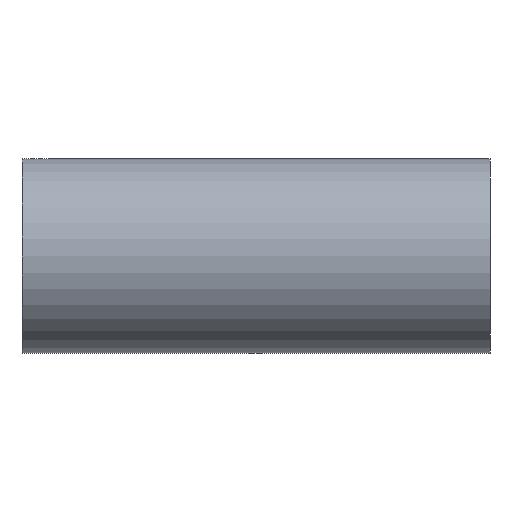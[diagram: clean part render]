
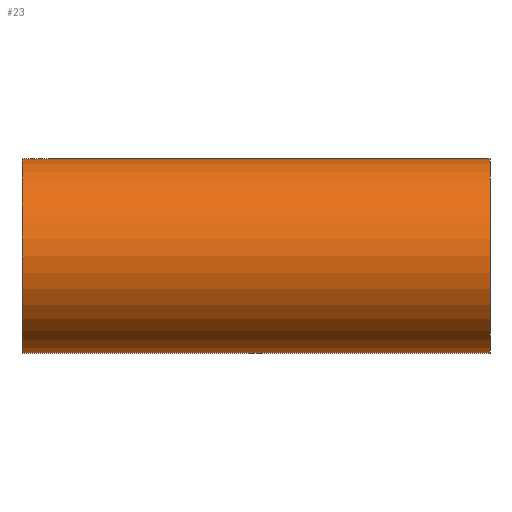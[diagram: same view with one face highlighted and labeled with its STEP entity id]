
A CAD part, front view. The second image highlights one B-rep face of the part: STEP entity #23.
In plain terms, the highlighted cylindrical face has radius 31.75 mm (diameter 63.5 mm), a partial arc.
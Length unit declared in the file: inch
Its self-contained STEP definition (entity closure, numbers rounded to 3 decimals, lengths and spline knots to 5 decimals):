
#16 = CARTESIAN_POINT ( 'NONE',  ( 3., 0., 0. ) ) ;
#23 = ADVANCED_FACE ( 'NONE', ( #223 ), #212, .T. ) ;
#26 = DIRECTION ( 'NONE',  ( 1., 0., 0. ) ) ;
#48 = CARTESIAN_POINT ( 'NONE',  ( 3., 0., 0. ) ) ;
#56 = DIRECTION ( 'NONE',  ( 0., 0., -1. ) ) ;
#66 = CARTESIAN_POINT ( 'NONE',  ( 3., 0., -1.25 ) ) ;
#99 = EDGE_CURVE ( 'NONE', #413, #314, #205, .T. ) ;
#104 = CARTESIAN_POINT ( 'NONE',  ( 3., 0., -1.25 ) ) ;
#112 = ORIENTED_EDGE ( 'NONE', *, *, #367, .F. ) ;
#124 = DIRECTION ( 'NONE',  ( -1., 0., 0. ) ) ;
#126 = VECTOR ( 'NONE', #388, 39.37008 ) ;
#128 = LINE ( 'NONE', #423, #126 ) ;
#133 = CARTESIAN_POINT ( 'NONE',  ( -3., 0., -1.25 ) ) ;
#151 = DIRECTION ( 'NONE',  ( 0., 0., 1. ) ) ;
#165 = VECTOR ( 'NONE', #124, 39.37008 ) ;
#169 = CARTESIAN_POINT ( 'NONE',  ( 3., 0., 1.25 ) ) ;
#170 = LINE ( 'NONE', #330, #165 ) ;
#174 = VECTOR ( 'NONE', #238, 39.37008 ) ;
#179 = EDGE_CURVE ( 'NONE', #226, #314, #197, .T. ) ;
#186 = CIRCLE ( 'NONE', #377, 1.25 ) ;
#197 = CIRCLE ( 'NONE', #391, 1.25 ) ;
#205 = LINE ( 'NONE', #104, #207 ) ;
#207 = VECTOR ( 'NONE', #379, 39.37008 ) ;
#211 = LINE ( 'NONE', #278, #174 ) ;
#212 = CYLINDRICAL_SURFACE ( 'NONE', #401, 1.25 ) ;
#223 = FACE_OUTER_BOUND ( 'NONE', #301, .T. ) ;
#226 = VERTEX_POINT ( 'NONE', #375 ) ;
#228 = ORIENTED_EDGE ( 'NONE', *, *, #356, .T. ) ;
#238 = DIRECTION ( 'NONE',  ( -1., 0., 0. ) ) ;
#272 = ORIENTED_EDGE ( 'NONE', *, *, #438, .T. ) ;
#274 = VERTEX_POINT ( 'NONE', #66 ) ;
#278 = CARTESIAN_POINT ( 'NONE',  ( 3., 0., 1.25 ) ) ;
#281 = VERTEX_POINT ( 'NONE', #169 ) ;
#283 = CARTESIAN_POINT ( 'NONE',  ( 0., 0., -1.25 ) ) ;
#290 = ORIENTED_EDGE ( 'NONE', *, *, #99, .F. ) ;
#296 = EDGE_CURVE ( 'NONE', #281, #274, #186, .T. ) ;
#301 = EDGE_LOOP ( 'NONE', ( #112, #317, #272, #228, #433, #290 ) ) ;
#306 = VERTEX_POINT ( 'NONE', #372 ) ;
#314 = VERTEX_POINT ( 'NONE', #133 ) ;
#317 = ORIENTED_EDGE ( 'NONE', *, *, #296, .F. ) ;
#330 = CARTESIAN_POINT ( 'NONE',  ( 3., 0., -1.25 ) ) ;
#356 = EDGE_CURVE ( 'NONE', #306, #226, #211, .T. ) ;
#360 = DIRECTION ( 'NONE',  ( -1., 0., 0. ) ) ;
#367 = EDGE_CURVE ( 'NONE', #274, #413, #170, .T. ) ;
#372 = CARTESIAN_POINT ( 'NONE',  ( 0., 0., 1.25 ) ) ;
#375 = CARTESIAN_POINT ( 'NONE',  ( -3., 0., 1.25 ) ) ;
#377 = AXIS2_PLACEMENT_3D ( 'NONE', #16, #444, #440 ) ;
#379 = DIRECTION ( 'NONE',  ( -1., 0., 0. ) ) ;
#388 = DIRECTION ( 'NONE',  ( -1., 0., 0. ) ) ;
#391 = AXIS2_PLACEMENT_3D ( 'NONE', #434, #26, #56 ) ;
#401 = AXIS2_PLACEMENT_3D ( 'NONE', #48, #360, #151 ) ;
#413 = VERTEX_POINT ( 'NONE', #283 ) ;
#423 = CARTESIAN_POINT ( 'NONE',  ( 3., 0., 1.25 ) ) ;
#433 = ORIENTED_EDGE ( 'NONE', *, *, #179, .T. ) ;
#434 = CARTESIAN_POINT ( 'NONE',  ( -3., 0., 0. ) ) ;
#438 = EDGE_CURVE ( 'NONE', #281, #306, #128, .T. ) ;
#440 = DIRECTION ( 'NONE',  ( 0., 0., -1. ) ) ;
#444 = DIRECTION ( 'NONE',  ( 1., 0., 0. ) ) ;
